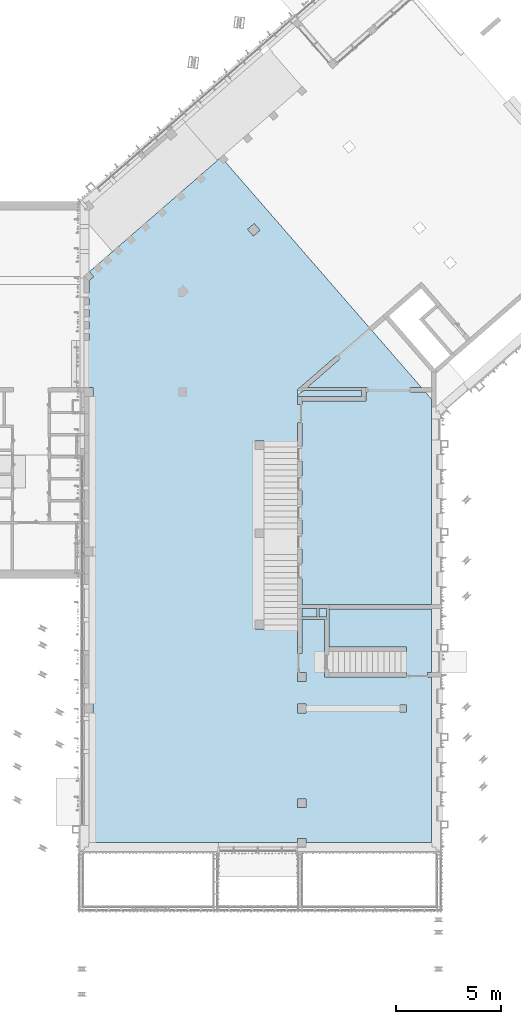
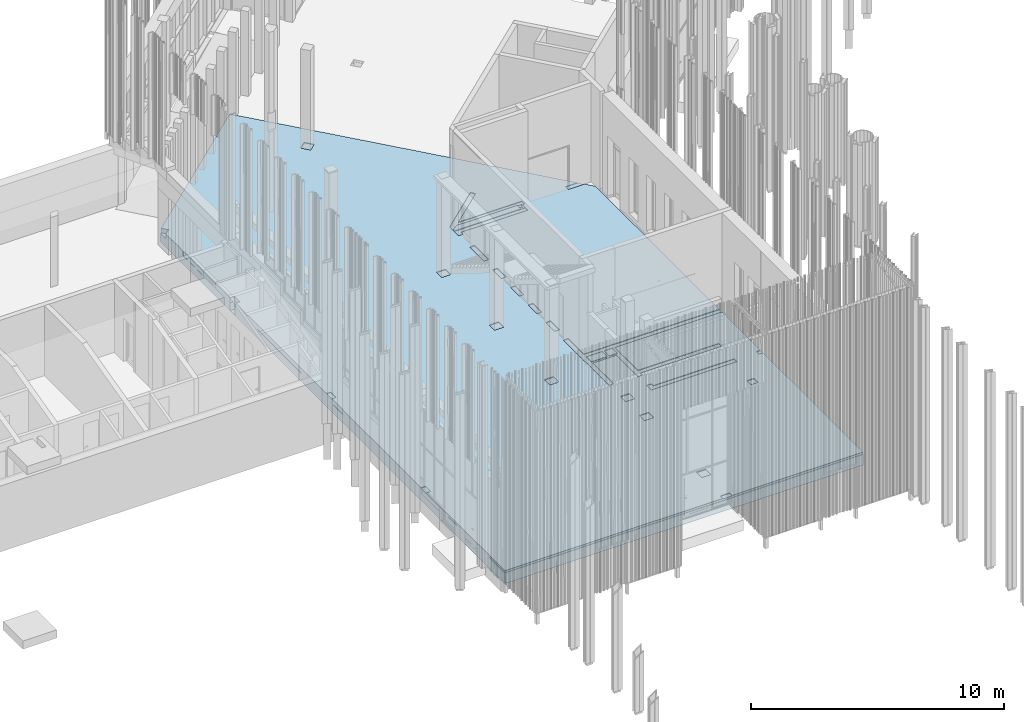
# One storey, part 78 of 390: 1 slab.
"""IFC2X3 building model written with IfcOpenShell, lengths in millimetres."""

from ifc_helpers import new_model, entity, si_unit, converted_unit, derived_unit, money_unit, direction, frame, origin_with_axes, place, context, subcontext, project, spatial, faceted_brep, material, material_list, type_object, element, save


model = new_model("IFC2X3")

# Units and contexts
model_context = context("Model", 3, precision=1e-05, world=origin_with_axes(), true_north=direction((0.0, 1.0)))
body_context = subcontext(model_context, "Body", "Model", "MODEL_VIEW")
ifc_project = project(units=[si_unit("LENGTHUNIT", "METRE", prefix="MILLI"), si_unit("AREAUNIT", "SQUARE_METRE"), si_unit("VOLUMEUNIT", "CUBIC_METRE"), converted_unit("PLANEANGLEUNIT", "DEGREE", entity("IfcPlaneAngleMeasure", 0.0174532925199), si_unit("PLANEANGLEUNIT", "RADIAN"), dimensions=[0, 0, 0, 0, 0, 0, 0]), si_unit("SOLIDANGLEUNIT", "STERADIAN"), money_unit("EUR"), converted_unit("TIMEUNIT", "Year", entity("IfcTimeMeasure", 31556926.0), si_unit("TIMEUNIT", "SECOND"), dimensions=[0, 0, 1, 0, 0, 0, 0]), si_unit("MASSUNIT", "GRAM", prefix="KILO"), si_unit("THERMODYNAMICTEMPERATUREUNIT", "DEGREE_CELSIUS"), si_unit("LUMINOUSINTENSITYUNIT", "LUMEN"), si_unit("ENERGYUNIT", "JOULE", prefix="MEGA"), derived_unit("THERMALCONDUCTANCEUNIT", [(si_unit("POWERUNIT", "WATT"), 1), (si_unit("LENGTHUNIT", "METRE"), -1), (si_unit("THERMODYNAMICTEMPERATUREUNIT", "KELVIN"), -1)]), derived_unit("SPECIFICHEATCAPACITYUNIT", [(si_unit("ENERGYUNIT", "JOULE"), 1), (si_unit("MASSUNIT", "GRAM", prefix="KILO"), -1), (si_unit("THERMODYNAMICTEMPERATUREUNIT", "KELVIN"), -1)]), derived_unit("MASSDENSITYUNIT", [(si_unit("MASSUNIT", "GRAM", prefix="KILO"), 1), (si_unit("VOLUMEUNIT", "CUBIC_METRE"), -1)])], contexts=[model_context])

# Site, building, storey
site_placement = place(None, origin_with_axes())
site = spatial("IfcSite", under=ifc_project, at=site_placement, Name="Site", CompositionType="ELEMENT")
building_placement = place(site_placement, origin_with_axes())
building = spatial("IfcBuilding", under=site, at=building_placement, Name="Building", CompositionType="ELEMENT")
storey_placement = place(building_placement, origin_with_axes())
storey = spatial("IfcBuildingStorey", under=building, at=storey_placement, Name="1 korrus", CompositionType="ELEMENT", Elevation=0.0)

# Slab
ifc_material_1 = material(Name="Puit - Põrand")
ifc_material_2 = material(Name="Betoon")
ifc_material_3 = material(Name="Soojustus - Plastik Kõva")
ifc_material_4 = material(Name="Killustik")
ifc_material_list = material_list([ifc_material_1, ifc_material_1, ifc_material_1, ifc_material_2, ifc_material_3, ifc_material_3, ifc_material_4])
slab_type = type_object("IfcSlabType", Name="PP-01", PredefinedType="FLOOR")
slab_placement = place(storey_placement, frame((122899.999997, 72748.3156468, 0.0), z_axis=(0.0, 0.0, 1.0), x_axis=(1.0, 0.0, 0.0)))
element("IfcSlab", 1, at=slab_placement, inside=storey, type_object=slab_type, material=ifc_material_list, Name="PP-01", PredefinedType="FLOOR", context=body_context, shape_type="Brep", body=[
    faceted_brep([(11380.0000632, -15808.3157502, 0.0), (11380.0000632, -15808.3157502, -20.0), (11010.000001, -15808.3157153, -20.0), (11010.000001, -15808.3157153, 0.0), (11379.9999935, -16208.3156414, 0.0), (11379.9999935, -16208.3156414, -20.0), (11010.000001, -16208.3156412, -20.0), (11010.000001, -16208.3156412, 0.0)], [[[0, 1, 2, 3]], [[4, 5, 1, 0]], [[1, 5, 6, 2]], [[2, 6, 7, 3]], [[4, 0, 3, 7]], [[5, 4, 7, 6]]]),
    faceted_brep([(10910.000001, -15808.3157058, 0.0), (10910.000001, -15808.3157058, -20.0), (10189.9999831, -15808.3156379, -20.0), (10189.9999831, -15808.3156379, 0.0), (10910.000001, -16208.3156412, 0.0), (10910.000001, -16208.3156412, -20.0), (10189.9999831, -16208.3161193, -20.0), (10189.9999831, -16208.3161193, 0.0)], [[[0, 1, 2, 3]], [[0, 4, 5, 1]], [[1, 5, 6, 2]], [[2, 6, 7, 3]], [[4, 0, 3, 7]], [[5, 4, 7, 6]]]),
    faceted_brep([(241.445957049, 64.1341173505, 0.0), (9.99999852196, -137.058783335, 0.0), (9.99999852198, -718.31563646, 0.0), (1.30188482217e-06, -718.31563646, 0.0), (1.17550769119e-06, -948.31563646, 0.0), (9.99999851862, -948.31563646, 0.0), (9.99999851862, -1288.31563646, 0.0), (9.88677584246e-07, -1288.31563646, 0.0), (8.62314664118e-07, -1518.31563646, 0.0), (9.99999851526, -1518.31563646, 0.0), (9.99999851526, -1858.31563646, 0.0), (6.75484557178e-07, -1858.31563646, 0.0), (5.49107426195e-07, -2088.31563646, 0.0), (9.99999851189, -2088.31563646, 0.0), (9.99999851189, -2428.31563646, 0.0), (3.62291530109e-07, -2428.31563646, 0.0), (2.35914399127e-07, -2658.31563646, 0.0), (9.99999880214, -2658.31563646, 0.0), (9.99999880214, -2998.31563646, 0.0), (4.9098503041e-08, -2998.31563646, 0.0), (-1.1817178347e-06, -5238.31564872, 0.0), (209.999997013, -5238.31563534, 0.0), (209.999997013, -5658.31563534, 0.0), (9.99999858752, -5658.31563534, 0.0), (9.99999852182, -12863.3156346, 0.0), (210.000000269, -12863.3156346, 0.0), (210.000000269, -13283.3156346, 0.0), (9.999998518, -13283.3156346, 0.0), (9.99999851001, -14158.3156374, 0.0), (-1.48999390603e-06, -14158.3156374, 0.0), (-1.57524482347e-06, -20368.3156402, 0.0), (209.999999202, -20368.3156402, 0.0), (209.999999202, -20788.3156402, 0.0), (-1.58101443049e-06, -20788.3156402, 0.0), (-1.60500235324e-06, -22535.7470801, 0.0), (9.999998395, -22535.7470801, 0.0), (9.99999834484, -22735.7470801, -0.00020130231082), (9.99999834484, -26168.3155236, -0.00020130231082), (9.999998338, -26988.3156376, 0.0), (6200.0000001, -26988.315637, 0.0), (9979.99999425, -26988.3156366, 0.0), (9979.99999425, -26788.3156361, 0.0), (10399.9999943, -26788.3156361, 0.0), (10399.9999943, -26988.3156366, 0.0), (16390.0000019, -26988.3156366, 0.0), (16390.0000019, -19078.3162577, 0.0), (16190.0000015, -19078.3162577, 0.0), (16190.0000013, -18858.3162505, 0.0), (16390.0000019, -18858.3162501, 0.0), (16390.0001517, -17858.31625, 0.0), (16390.0001694, -15818.316212, 0.0), (11490.0000615, -15818.3147851, 0.0), (11489.9999744, -17638.3162583, 0.0), (15190.0000013, -17638.3162583, 0.0), (15190.0000013, -17858.3162583, 0.0), (11489.9999744, -17858.3162583, 0.0), (11489.9999744, -18008.3162577, 0.0), (11269.9999744, -18008.3162598, 0.0), (11269.9999744, -16318.3156414, 0.0), (10200.0000014, -16318.3156414, 0.0), (10200.0000043, -17958.3162577, 0.0), (9980.00000433, -17958.3162582, 0.0), (9979.99998313, -15608.3156181, 0.0), (9980.00000052, -15598.3156217, 0.0), (9980.00000052, -14358.2571255, 0.0), (10200.0000005, -14358.2571255, 0.0), (10200.0000005, -15598.3156217, 0.0), (16390.0001694, -15598.3162883, 0.0), (16390.0003563, -7748.31562968, 0.0), (16390.0003748, -6745.3156304, 0.0), (16389.9994616, -5791.32149205, 0.0), (16091.6769239, -5448.14066963, 0.0), (15349.9999999, -5448.14066963, 0.0), (15349.9999999, -5228.14066963, 0.0), (15900.4338416, -5228.14066963, 0.0), (13553.4805033, -2528.27969661, 0.0), (13533.4767918, -2545.66865778, 0.0), (13389.1438054, -2379.63255014, 0.0), (13409.1475169, -2362.24358897, 0.0), (6336.83115057, 5773.52572317, 0.0), (38.0675472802, 298.0942165, 0.0), (9980.00000052, -13658.2571255, 0.0), (9980.00000052, -12958.2571255, 0.0), (10200.0000005, -12958.2571255, 0.0), (10200.0000005, -13658.2571255, 0.0), (9980.00000052, -11558.2571255, 0.0), (10200.0000005, -11558.2571255, 0.0), (10200.0000005, -12258.2571255, 0.0), (9980.00000052, -12258.2571255, 0.0), (10200.0000005, -10158.2571255, 0.0), (10200.0000005, -10858.2571255, 0.0), (9980.00000052, -10858.2571255, 0.0), (9980.00000052, -10158.2571255, 0.0), (10200.0000005, -9458.25712553, 0.0), (9980.00000052, -9458.25712554, 0.0), (9980.00000052, -8758.25712554, 0.0), (10200.0000005, -8758.25712553, 0.0), (9980.00000052, -8058.25712554, 0.0), (9980.00000052, -6938.31563631, 0.0), (10200.0000005, -6938.3156363, 0.0), (10200.0000005, -8058.25712553, 0.0), (11489.9999992, -18858.3162577, 0.0), (15190.0000013, -18858.316252, 0.0), (15190.0000015, -19078.3162577, 0.0), (11269.9999744, -19078.3162742, 0.0), (11269.9999744, -18708.3162598, 0.0), (11489.9999744, -18708.3162577, 0.0), (9980.00000052, -5675.14067029, 0.0), (10190.0000005, -5675.14067027, 0.0), (13040.0, -5675.1406703, 0.0), (13039.9983099, -5388.14067029, 0.0), (10263.5867907, -5388.14067029, 0.0), (10189.9999999, -5452.10869164, 0.0), (10189.9999999, -5438.85856171, 0.0), (9989.99999988, -5612.71590929, 0.0), (9990.00000052, -5388.14067028, 0.0), (9980.00000052, -5388.14067029, 0.0), (9980.00000052, -5356.40617743, 0.0), (9979.99999987, -5343.15604806, 0.0), (11879.724645, -3691.75060825, 0.0), (12024.0576314, -3857.78671588, 0.0), (10447.6457359, -5228.14067023, 0.0), (13349.9999999, -5228.14066963, 0.0), (13349.9999999, -5448.14066963, 0.0), (13249.9986632, -5448.14066963, 0.0), (13250.0011778, -5875.1406703, 0.0), (13250.0012366, -5885.1406703, 0.0), (10200.0000005, -5885.1406703, 0.0), (10200.0000005, -6038.3156363, 0.0), (9980.00000052, -6038.31563631, 0.0), (10200.0000043, -18858.3162577, 0.0), (10399.9999943, -18858.3156343, 0.0), (10399.9999943, -19278.3156343, 0.0), (9979.99999425, -19278.3156343, 0.0), (9979.99999425, -18958.3162584, 0.0), (9980.00000433, -18858.3162582, 0.0), (9979.99999425, -24898.3156361, 0.0), (10399.9999943, -24898.3156361, 0.0), (10399.9999943, -25318.3156361, 0.0), (9979.99999425, -25318.3156361, 0.0), (10399.999996, -20788.3156366, 0.0), (9979.99999605, -20788.3156366, 0.0), (9979.99999605, -20368.3156366, 0.0), (10399.999996, -20368.3156366, 0.0), (14870.0000032, -20418.3156397, 0.0), (15190.0000032, -20418.3156397, 0.0), (15190.0000032, -20738.3156397, 0.0), (14870.0000032, -20738.3156397, 0.0), (7912.28699296, 2598.25379201, 0.0), (8187.8317839, 2281.27576724, 0.0), (7870.85375914, 2005.7309763, 0.0), (7595.30896819, 2322.70900107, 0.0), (8379.99999814, -12408.3156291, 0.0), (7959.99999814, -12408.3156291, 0.0), (7959.99999814, -11988.3156291, 0.0), (8379.99999814, -11988.3156291, 0.0), (7959.99999814, -7788.31562912, 0.0), (8379.99999814, -7788.31562912, 0.0), (8379.99999814, -8208.31562912, 0.0), (7959.99999814, -8208.31562912, 0.0), (8379.99992128, -16768.3156307, 0.0), (7959.99992128, -16768.3156307, 0.0), (7959.99992128, -16348.3156307, 0.0), (8379.99992128, -16348.3156307, 0.0), (241.445957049, 64.1341173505, -20.0), (9.99999852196, -137.058783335, -20.0), (9.99999852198, -718.31563646, -20.0), (1.30188482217e-06, -718.31563646, -20.0), (1.17550769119e-06, -948.31563646, -20.0), (9.99999851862, -948.31563646, -20.0), (9.99999851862, -1288.31563646, -20.0), (9.88677584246e-07, -1288.31563646, -20.0), (8.62314664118e-07, -1518.31563646, -20.0), (9.99999851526, -1518.31563646, -20.0), (9.99999851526, -1858.31563646, -20.0), (6.75484557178e-07, -1858.31563646, -20.0), (5.49107426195e-07, -2088.31563646, -20.0), (9.99999851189, -2088.31563646, -20.0), (9.99999851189, -2428.31563646, -20.0), (3.62291530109e-07, -2428.31563646, -20.0), (2.35914399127e-07, -2658.31563646, -20.0), (9.99999880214, -2658.31563646, -20.0), (9.99999880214, -2998.31563646, -20.0), (4.9098503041e-08, -2998.31563646, -20.0), (-1.1817178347e-06, -5238.31564872, -20.0), (209.999997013, -5238.31563534, -20.0), (209.999997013, -5658.31563534, -20.0), (9.99999858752, -5658.31563534, -20.0), (9.99999852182, -12863.3156346, -20.0), (210.000000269, -12863.3156346, -20.0), (210.000000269, -13283.3156346, -20.0), (9.999998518, -13283.3156346, -20.0), (9.99999851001, -14158.3156374, -20.0), (-1.48999390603e-06, -14158.3156374, -20.0), (-1.57524482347e-06, -20368.3156402, -20.0), (209.999999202, -20368.3156402, -20.0), (209.999999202, -20788.3156402, -20.0), (-1.58101443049e-06, -20788.3156402, -20.0), (-1.60500235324e-06, -22535.7470801, -20.0), (9.999998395, -22535.7470801, -20.0), (9.999998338, -26988.3156376, -20.0), (9979.99999425, -26988.315637, -20.0), (9979.99999425, -26788.3156361, -20.0), (10399.9999943, -26788.3156361, -20.0), (10399.9999943, -26988.315637, -20.0), (16390.0000019, -26988.3156366, -20.0), (16390.0000019, -19078.3162577, -20.0), (16190.0000015, -19078.3162577, -20.0), (16190.0000013, -18858.3162505, -20.0), (16390.0000019, -18858.3162501, -20.0), (16390.0001701, -15818.316212, -20.0), (11490.0000615, -15818.3147851, -20.0), (11489.9999744, -17638.3162583, -20.0), (15190.0000013, -17638.3162583, -20.0), (15190.0000013, -17858.3162583, -20.0), (11489.9999744, -17858.3162583, -20.0), (11489.9999744, -18008.3162577, -20.0), (11269.9999744, -18008.3162598, -20.0), (11269.9999744, -16318.3156414, -20.0), (10200.0000014, -16318.3156414, -20.0), (10200.0000043, -17958.3162577, -20.0), (9980.00000433, -17958.3162582, -20.0), (9979.99998313, -15608.3156181, -20.0), (9980.00000052, -15598.3156217, -20.0), (9980.00000052, -14358.2571255, -20.0), (10200.0000005, -14358.2571255, -20.0), (10200.0000005, -15598.3156217, -20.0), (16390.0001701, -15598.3162886, -20.0), (16389.9994615, -5791.32149198, -20.0), (16091.6769239, -5448.14066963, -20.0), (15349.9999999, -5448.14066963, -20.0), (15349.9999999, -5228.14066963, -20.0), (15900.4338416, -5228.14066963, -20.0), (13553.4805033, -2528.27969661, -20.0), (13533.4767918, -2545.66865778, -20.0), (13389.1438054, -2379.63255014, -20.0), (13409.1475169, -2362.24358897, -20.0), (6336.83115057, 5773.52572317, -20.0), (38.0675472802, 298.0942165, -20.0), (9980.00000052, -13658.2571255, -20.0), (9980.00000052, -12958.2571255, -20.0), (10200.0000005, -12958.2571255, -20.0), (10200.0000005, -13658.2571255, -20.0), (9980.00000052, -11558.2571255, -20.0), (10200.0000005, -11558.2571255, -20.0), (10200.0000005, -12258.2571255, -20.0), (9980.00000052, -12258.2571255, -20.0), (10200.0000005, -10858.2571255, -20.0), (10200.0000005, -10158.2571255, -20.0), (9980.00000052, -10858.2571255, -20.0), (9980.00000052, -10158.2571255, -20.0), (10200.0000005, -9458.25712553, -20.0), (9980.00000052, -9458.25712554, -20.0), (9980.00000052, -8758.25712554, -20.0), (10200.0000005, -8758.25712553, -20.0), (9980.00000052, -8058.25712554, -20.0), (9980.00000052, -6938.31563631, -20.0), (10200.0000005, -6938.3156363, -20.0), (10200.0000005, -8058.25712553, -20.0), (11489.9999992, -18858.3162577, -20.0), (15190.0000013, -18858.316252, -20.0), (15190.0000015, -19078.3162577, -20.0), (11280.0000013, -19078.3162577, -20.0), (11269.9999744, -19078.3162743, -20.0), (11269.9999744, -18708.3162598, -20.0), (11489.9999744, -18708.3162577, -20.0), (9980.00000052, -5675.14067029, -20.0), (10190.0000005, -5675.14067027, -20.0), (13040.0, -5675.1406703, -20.0), (13039.9983099, -5388.14067029, -20.0), (10263.5867907, -5388.14067029, -20.0), (10189.9999999, -5452.10869164, -20.0), (10189.9999999, -5438.85856171, -20.0), (9989.99999988, -5612.71590929, -20.0), (9990.00000052, -5388.14067028, -20.0), (9980.00000052, -5388.14067029, -20.0), (9980.00000052, -5356.40617743, -20.0), (9979.99999987, -5343.15604806, -20.0), (11879.724645, -3691.75060825, -20.0), (12024.0576314, -3857.78671588, -20.0), (10447.6457358, -5228.14067029, -20.0), (13039.9973676, -5228.14067029, -20.0), (13249.9973676, -5228.14066963, -20.0), (13349.9999999, -5228.14066963, -20.0), (13349.9999999, -5448.14066963, -20.0), (13249.9986632, -5448.14066963, -20.0), (13250.0, -5675.13943328, -19.999999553), (13250.0011778, -5875.1406703, -20.0), (13250.0012366, -5885.1406703, -20.0), (10200.0000005, -5885.1406703, -20.0), (10200.0000005, -6038.3156363, -20.0), (9980.00000052, -6038.31563631, -20.0), (10399.9999943, -18858.3156343, -20.0), (10200.0000043, -18858.316228, -20.0), (10399.9999943, -19278.3156343, -20.0), (9979.99999425, -19278.3156343, -20.0), (9979.99999425, -18958.3162584, -20.0), (9980.00000433, -18858.3162582, -20.0), (9979.99999425, -24898.3156361, -20.0), (10399.9999943, -24898.3156361, -20.0), (10399.9999943, -25318.3156361, -20.0), (9979.99999425, -25318.3156361, -20.0), (9979.99999605, -20788.3156366, -20.0), (10399.999996, -20788.3156366, -20.0), (9979.99999605, -20368.3156366, -20.0), (10399.999996, -20368.3156366, -20.0), (14870.0000032, -20418.3156397, -20.0), (15190.0000032, -20418.3156397, -20.0), (15190.0000032, -20738.3156397, -20.0), (14870.0000032, -20738.3156397, -20.0), (7912.28699296, 2598.25379201, -20.0), (8187.8317839, 2281.27576724, -20.0), (7870.85375914, 2005.7309763, -20.0), (7595.30896819, 2322.70900107, -20.0), (7959.99999814, -12408.3156291, -20.0), (8379.99999814, -12408.3156291, -20.0), (7959.99999814, -11988.3156291, -20.0), (8379.99999814, -11988.3156291, -20.0), (7959.99999814, -7788.31562912, -20.0), (8379.99999814, -7788.31562912, -20.0), (8379.99999814, -8208.31562912, -20.0), (7959.99999814, -8208.31562912, -20.0), (7959.99992128, -16768.3156307, -20.0), (8379.99992128, -16768.3156307, -20.0), (7959.99992128, -16348.3156307, -20.0), (8379.99992128, -16348.3156307, -20.0)], [[[0, 1, 2, 3, 4, 5, 6, 7, 8, 9, 10, 11, 12, 13, 14, 15, 16, 17, 18, 19, 20, 21, 22, 23, 24, 25, 26, 27, 28, 29, 30, 31, 32, 33, 34, 35, 36, 37, 38, 39, 40, 41, 42, 43, 44, 45, 46, 47, 48, 49, 50, 51, 52, 53, 54, 55, 56, 57, 58, 59, 60, 61, 62, 63, 64, 65, 66, 67, 68, 69, 70, 71, 72, 73, 74, 75, 76, 77, 78, 79, 80], [81, 82, 83, 84], [85, 86, 87, 88], [89, 90, 91, 92], [93, 94, 95, 96], [97, 98, 99, 100], [101, 102, 103, 104, 105, 106], [107, 108, 109, 110, 111, 112, 113, 114, 115, 116, 117, 118, 119, 120, 121, 122, 123, 124, 125, 126, 127, 128, 129], [130, 131, 132, 133, 134, 135], [136, 137, 138, 139], [140, 141, 142, 143], [144, 145, 146, 147], [148, 149, 150, 151], [152, 153, 154, 155], [156, 157, 158, 159], [160, 161, 162, 163]], [[1, 0, 164, 165]], [[1, 165, 166, 2]], [[2, 166, 167, 3]], [[3, 167, 168, 4]], [[168, 169, 5, 4]], [[169, 170, 6, 5]], [[170, 171, 7, 6]], [[171, 172, 8, 7]], [[173, 9, 8, 172]], [[174, 10, 9, 173]], [[175, 11, 10, 174]], [[12, 11, 175, 176]], [[13, 12, 176, 177]], [[14, 13, 177, 178]], [[15, 14, 178, 179]], [[15, 179, 180, 16]], [[181, 17, 16, 180]], [[182, 18, 17, 181]], [[183, 19, 18, 182]], [[183, 184, 20, 19]], [[185, 21, 20, 184]], [[186, 22, 21, 185]], [[187, 23, 22, 186]], [[187, 188, 24, 23]], [[189, 25, 24, 188]], [[190, 26, 25, 189]], [[191, 27, 26, 190]], [[28, 27, 191, 192]], [[29, 28, 192, 193]], [[30, 29, 193, 194]], [[30, 194, 195, 31]], [[31, 195, 196, 32]], [[32, 196, 197, 33]], [[197, 198, 34, 33]], [[199, 35, 34, 198]], [[200, 38, 37, 36, 35, 199]], [[39, 38, 200, 201, 40]], [[40, 201, 202, 41]], [[41, 202, 203, 42]], [[42, 203, 204, 43]], [[204, 205, 44, 43]], [[45, 44, 205, 206]], [[45, 206, 207, 46]], [[207, 208, 47, 46]], [[208, 209, 48, 47]], [[49, 48, 209, 210, 50]], [[50, 210, 211, 51]], [[52, 51, 211, 212]], [[213, 53, 52, 212]], [[214, 54, 53, 213]], [[214, 215, 55, 54]], [[216, 56, 55, 215]], [[57, 56, 216, 217]], [[218, 58, 57, 217]], [[59, 58, 218, 219]], [[59, 219, 220, 60]], [[61, 60, 220, 221]], [[221, 222, 62, 61]], [[63, 62, 222, 223]], [[224, 64, 63, 223]], [[225, 65, 64, 224]], [[66, 65, 225, 226]], [[66, 226, 227, 67]], [[68, 67, 227, 228, 70, 69]], [[70, 228, 229, 71]], [[229, 230, 72, 71]], [[231, 73, 72, 230]], [[232, 74, 73, 231]], [[75, 74, 232, 233]], [[75, 233, 234, 76]], [[234, 235, 77, 76]], [[235, 236, 78, 77]], [[79, 78, 236, 237]], [[238, 80, 79, 237]], [[0, 80, 238, 164]], [[82, 81, 239, 240]], [[83, 82, 240, 241]], [[83, 241, 242, 84]], [[239, 81, 84, 242]], [[85, 243, 244, 86]], [[244, 245, 87, 86]], [[88, 87, 245, 246]], [[88, 246, 243, 85]], [[247, 90, 89, 248]], [[90, 247, 249, 91]], [[249, 250, 92, 91]], [[250, 248, 89, 92]], [[251, 252, 94, 93]], [[253, 95, 94, 252]], [[254, 96, 95, 253]], [[93, 96, 254, 251]], [[98, 97, 255, 256]], [[99, 98, 256, 257]], [[99, 257, 258, 100]], [[255, 97, 100, 258]], [[102, 101, 259, 260]], [[103, 102, 260, 261]], [[262, 263, 104, 103, 261]], [[104, 263, 264, 105]], [[265, 106, 105, 264]], [[259, 101, 106, 265]], [[107, 266, 267, 108]], [[109, 108, 267, 268]], [[110, 109, 268, 269]], [[110, 269, 270, 111]], [[270, 271, 112, 111]], [[112, 271, 272, 113]], [[273, 114, 113, 272]], [[274, 115, 114, 273]], [[116, 115, 274, 275]], [[276, 117, 116, 275]], [[117, 276, 277, 118]], [[119, 118, 277, 278]], [[119, 278, 279, 120]], [[279, 280, 121, 120]], [[281, 282, 283, 122, 121, 280]], [[123, 122, 283, 284]], [[123, 284, 285, 124]], [[125, 124, 285, 286, 287]], [[288, 126, 125, 287]], [[126, 288, 289, 127]], [[289, 290, 128, 127]], [[129, 128, 290, 291]], [[129, 291, 266, 107]], [[292, 131, 130, 293]], [[294, 132, 131, 292]], [[295, 133, 132, 294]], [[296, 297, 135, 134, 133, 295]], [[297, 293, 130, 135]], [[136, 298, 299, 137]], [[137, 299, 300, 138]], [[138, 300, 301, 139]], [[139, 301, 298, 136]], [[302, 141, 140, 303]], [[304, 142, 141, 302]], [[305, 143, 142, 304]], [[303, 140, 143, 305]], [[144, 306, 307, 145]], [[145, 307, 308, 146]], [[146, 308, 309, 147]], [[147, 309, 306, 144]], [[148, 310, 311, 149]], [[149, 311, 312, 150]], [[150, 312, 313, 151]], [[151, 313, 310, 148]], [[314, 153, 152, 315]], [[316, 154, 153, 314]], [[317, 155, 154, 316]], [[315, 152, 155, 317]], [[156, 318, 319, 157]], [[157, 319, 320, 158]], [[158, 320, 321, 159]], [[159, 321, 318, 156]], [[322, 161, 160, 323]], [[324, 162, 161, 322]], [[325, 163, 162, 324]], [[323, 160, 163, 325]], [[164, 238, 237, 236, 235, 234, 233, 232, 231, 230, 229, 228, 227, 226, 225, 224, 223, 222, 221, 220, 219, 218, 217, 216, 215, 214, 213, 212, 211, 210, 209, 208, 207, 206, 205, 204, 203, 202, 201, 200, 199, 198, 197, 196, 195, 194, 193, 192, 191, 190, 189, 188, 187, 186, 185, 184, 183, 182, 181, 180, 179, 178, 177, 176, 175, 174, 173, 172, 171, 170, 169, 168, 167, 166, 165], [239, 242, 241, 240], [245, 244, 243, 246], [248, 250, 249, 247], [253, 252, 251, 254], [255, 258, 257, 256], [264, 263, 262, 261, 260, 259, 265], [281, 280, 279, 278, 277, 276, 275, 274, 273, 272, 271, 270, 269, 268, 267, 266, 291, 290, 289, 288, 287, 286, 285, 284, 283, 282], [296, 295, 294, 292, 293, 297], [300, 299, 298, 301], [304, 302, 303, 305], [308, 307, 306, 309], [312, 311, 310, 313], [316, 314, 315, 317], [320, 319, 318, 321], [324, 322, 323, 325]]]),
    faceted_brep([(241.445957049, 64.1341173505, -20.0), (9.99999852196, -137.058783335, -20.0), (9.99999852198, -718.31563646, -20.0), (1.30188482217e-06, -718.31563646, -20.0), (1.17550769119e-06, -948.31563646, -20.0), (9.99999851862, -948.31563646, -20.0), (9.99999851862, -1288.31563646, -20.0), (9.88677584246e-07, -1288.31563646, -20.0), (8.62314664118e-07, -1518.31563646, -20.0), (9.99999851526, -1518.31563646, -20.0), (9.99999851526, -1858.31563646, -20.0), (6.75484557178e-07, -1858.31563646, -20.0), (5.49107426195e-07, -2088.31563646, -20.0), (9.99999851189, -2088.31563646, -20.0), (9.99999851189, -2428.31563646, -20.0), (3.62291530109e-07, -2428.31563646, -20.0), (2.35914399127e-07, -2658.31563646, -20.0), (9.99999880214, -2658.31563646, -20.0), (9.99999880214, -2998.31563646, -20.0), (4.9098503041e-08, -2998.31563646, -20.0), (-1.1817178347e-06, -5238.31564872, -20.0), (209.999997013, -5238.31563534, -20.0), (209.999997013, -5658.31563534, -20.0), (9.99999858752, -5658.31563534, -20.0), (9.99999851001, -14158.3156374, -20.0), (-1.48999390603e-06, -14158.3156374, -20.0), (-1.60500235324e-06, -22535.7470801, -20.0), (9.999998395, -22535.7470801, -20.0), (9.999998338, -26988.3156376, -20.0), (16390.0000019, -26988.3156366, -20.0), (16389.9994615, -5791.32149198, -20.0), (6336.83115057, 5773.52572317, -20.0), (38.0675472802, 298.0942165, -20.0), (13040.0, -5675.1406703, -20.0), (13039.9983099, -5388.14072853, -19.999999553), (13249.9983098, -5388.13949186, -20.0), (13250.0, -5675.13943328, -19.999999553), (13240.0000004, -5675.13949217, -19.999999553), (241.445957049, 64.1341173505, -220.0), (9.99999852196, -137.058783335, -220.0), (9.99999852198, -718.31563646, -220.0), (1.30188482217e-06, -718.31563646, -220.0), (1.17550769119e-06, -948.31563646, -220.0), (9.99999851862, -948.31563646, -220.0), (9.99999851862, -1288.31563646, -220.0), (9.88677584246e-07, -1288.31563646, -220.0), (8.62314664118e-07, -1518.31563646, -220.0), (9.99999851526, -1518.31563646, -220.0), (9.99999851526, -1858.31563646, -220.0), (6.75484557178e-07, -1858.31563646, -220.0), (5.49107426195e-07, -2088.31563646, -220.0), (9.99999851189, -2088.31563646, -220.0), (9.99999851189, -2428.31563646, -220.0), (3.62291530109e-07, -2428.31563646, -220.0), (2.35914399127e-07, -2658.31563646, -220.0), (9.99999880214, -2658.31563646, -220.0), (9.99999880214, -2998.31563646, -220.0), (4.9098503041e-08, -2998.31563646, -220.0), (-1.1817178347e-06, -5238.31564872, -220.0), (209.999997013, -5238.31563534, -220.0), (209.999997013, -5658.31563534, -220.0), (9.99999858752, -5658.31563534, -220.0), (9.99999851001, -14158.3156374, -220.0), (-1.48999390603e-06, -14158.3156374, -220.0), (-1.66200209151e-06, -26998.3156376, -100.0), (-1.60500235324e-06, -22535.7470801, -100.0), (1.0255973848e-06, -26998.3156376, -220.0), (9.999998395, -22535.7470801, -100.0), (9.999998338, -26988.3156376, -100.0), (16390.0000019, -26988.3156366, -100.0), (6336.83115057, 5773.52572317, -220.0), (16389.9994611, -5791.32149149, -150.0), (16399.9994719, -5802.82518797, -150.0), (16399.9994722, -5802.82518838, -220.0), (38.0675472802, 298.0942165, -220.0), (13039.9983099, -5388.14072853, -150.0), (13040.0, -5675.14066995, -150.0), (13249.9983098, -5388.13949186, -150.0), (13250.0, -5675.13943328, -150.0), (16400.0000019, -26998.315636, -220.0), (16389.9998187, -6160.54241467, -99.9999991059), (16390.0003748, -6343.09171243, -100.0), (9.99999833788, -26998.3156376, -100.0), (16390.0000017, -26998.3156366, -100.0), (16400.0000019, -26998.315636, -100.0), (16399.9998183, -6160.54240498, -99.9999991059), (16389.9998187, -6160.54241467, -150.0), (16399.9998183, -6160.54240498, -150.0)], [[[0, 1, 2, 3, 4, 5, 6, 7, 8, 9, 10, 11, 12, 13, 14, 15, 16, 17, 18, 19, 20, 21, 22, 23, 24, 25, 26, 27, 28, 29, 30, 31, 32], [33, 34, 35, 36, 37]], [[1, 0, 38, 39]], [[1, 39, 40, 2]], [[3, 2, 40, 41]], [[42, 4, 3, 41]], [[5, 4, 42, 43]], [[6, 5, 43, 44]], [[7, 6, 44, 45]], [[46, 8, 7, 45]], [[9, 8, 46, 47]], [[10, 9, 47, 48]], [[11, 10, 48, 49]], [[11, 49, 50, 12]], [[13, 12, 50, 51]], [[14, 13, 51, 52]], [[15, 14, 52, 53]], [[15, 53, 54, 16]], [[17, 16, 54, 55]], [[18, 17, 55, 56]], [[19, 18, 56, 57]], [[58, 20, 19, 57]], [[21, 20, 58, 59]], [[22, 21, 59, 60]], [[23, 22, 60, 61]], [[23, 61, 62, 24]], [[63, 25, 24, 62]], [[64, 65, 26, 25, 63, 66]], [[26, 65, 67, 27]], [[68, 28, 27, 67]], [[29, 28, 68, 69]], [[69, 30, 29]], [[70, 31, 30, 71, 72, 73]], [[74, 32, 31, 70]], [[0, 32, 74, 38]], [[75, 34, 33, 76]], [[34, 75, 77, 35]], [[78, 36, 35, 77]], [[76, 33, 37, 36, 78]], [[38, 74, 70, 73, 79, 66, 63, 62, 61, 60, 59, 58, 57, 56, 55, 54, 53, 52, 51, 50, 49, 48, 47, 46, 45, 44, 43, 42, 41, 40, 39]], [[80, 81, 69, 68, 67, 65, 64, 82, 83, 84, 85]], [[66, 79, 84, 83, 82, 64]], [[81, 30, 69]], [[80, 86, 71, 30, 81]], [[71, 86, 87, 72]], [[85, 84, 79, 73, 72, 87]], [[78, 77, 75, 76]], [[86, 80, 85, 87]]]),
    faceted_brep([(199.999997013, -5648.31563534, -220.0), (1.66507163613e-06, -5648.31563534, -220.0), (1.0255973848e-06, -26998.3156376, -220.0), (16400.0000019, -26998.315636, -220.0), (16399.9994722, -5802.82518838, -220.0), (6336.83115057, 5773.52572317, -220.0), (1.84218151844e-06, 265.002605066, -220.0), (1.67705138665e-06, -5248.31563534, -220.0), (199.999997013, -5248.31563534, -220.0), (199.999997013, -5648.31563534, -320.0), (1.66507163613e-06, -5648.31563534, -320.0), (1.0255973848e-06, -26998.3156376, -320.0), (16400.0000019, -26998.315636, -320.0), (16399.9994722, -5802.82518838, -320.0), (6336.83115057, 5773.52572317, -320.0), (1.84218151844e-06, 265.002605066, -320.0), (1.67705138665e-06, -5248.31563534, -320.0), (199.999997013, -5248.31563534, -320.0)], [[[0, 1, 2, 3, 4, 5, 6, 7, 8]], [[1, 0, 9, 10]], [[1, 10, 11, 2]], [[2, 11, 12, 3]], [[3, 12, 13, 4]], [[4, 13, 14, 5]], [[5, 14, 15, 6]], [[16, 7, 6, 15]], [[8, 7, 16, 17]], [[0, 8, 17, 9]], [[17, 16, 15, 14, 13, 12, 11, 10, 9]]]),
    faceted_brep([(199.999997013, -5648.31563534, -320.0), (1.66507163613e-06, -5648.31563534, -320.0), (1.0255973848e-06, -26998.3156376, -320.0), (16400.0000019, -26998.315636, -320.0), (16399.9994722, -5802.82518838, -320.0), (6336.83115057, 5773.52572317, -320.0), (1.84218151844e-06, 265.002605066, -320.0), (1.67705138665e-06, -5248.31563534, -320.0), (199.999997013, -5248.31563534, -320.0), (199.999997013, -5648.31563534, -420.0), (1.66507163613e-06, -5648.31563534, -420.0), (1.0255973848e-06, -26998.3156376, -420.0), (16400.0000019, -26998.315636, -420.0), (16399.9994722, -5802.82518838, -420.0), (6336.83115057, 5773.52572317, -420.0), (1.84218151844e-06, 265.002605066, -420.0), (1.67705138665e-06, -5248.31563534, -420.0), (199.999997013, -5248.31563534, -420.0)], [[[0, 1, 2, 3, 4, 5, 6, 7, 8]], [[1, 0, 9, 10]], [[1, 10, 11, 2]], [[2, 11, 12, 3]], [[3, 12, 13, 4]], [[4, 13, 14, 5]], [[5, 14, 15, 6]], [[16, 7, 6, 15]], [[8, 7, 16, 17]], [[0, 8, 17, 9]], [[17, 16, 15, 14, 13, 12, 11, 10, 9]]]),
    faceted_brep([(199.999997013, -5648.31563534, -420.0), (1.66507163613e-06, -5648.31563534, -420.0), (1.0255973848e-06, -26998.3156376, -420.0), (16400.0000019, -26998.315636, -420.0), (16399.9994722, -5802.82518838, -420.0), (6336.83115057, 5773.52572317, -420.0), (1.84218151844e-06, 265.002605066, -420.0), (1.67705138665e-06, -5248.31563534, -420.0), (199.999997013, -5248.31563534, -420.0), (199.999997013, -5648.31563534, -600.0), (2.06681249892e-06, -5648.31563534, -600.0), (2.05162109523e-06, -5248.31563534, -600.0), (1.84218151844e-06, 265.002605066, -620.0), (1.0255973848e-06, -26998.3156376, -620.0), (16400.0000019, -26998.315636, -620.0), (16399.9994722, -5802.82518838, -620.0), (6336.83115057, 5773.52572317, -620.0), (199.999997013, -5248.31563534, -600.0)], [[[0, 1, 2, 3, 4, 5, 6, 7, 8]], [[1, 0, 9, 10]], [[11, 7, 6, 12, 13, 2, 1, 10]], [[2, 13, 14, 3]], [[3, 14, 15, 4]], [[4, 15, 16, 5]], [[5, 16, 12, 6]], [[8, 7, 11, 17]], [[0, 8, 17, 9]], [[11, 10, 9, 17]], [[14, 13, 12, 16, 15]]]),
])

save(model, "model.ifc")
